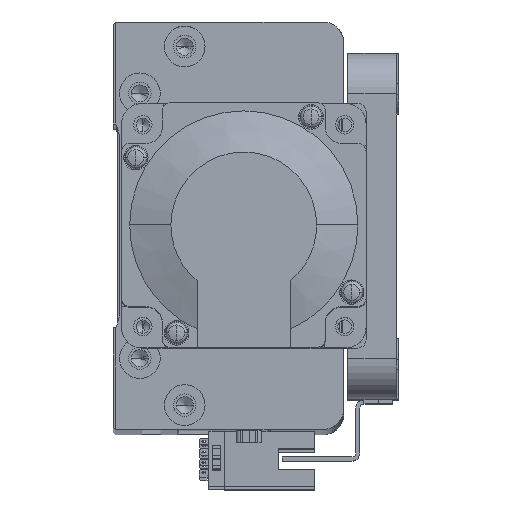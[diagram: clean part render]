
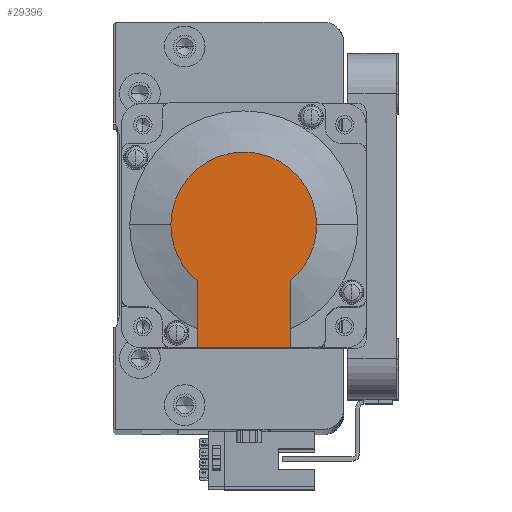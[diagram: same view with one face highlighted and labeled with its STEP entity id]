
A CAD part, top view. The second image highlights one B-rep face of the part: STEP entity #29396.
In plain terms, the highlighted planar face has unit normal (0, 0, 1) as drawn and (-1, 0, 0) by its records, which use the part's own axes.
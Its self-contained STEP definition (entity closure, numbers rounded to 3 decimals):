
#461 = CIRCLE ( 'NONE', #43246, 17.881 ) ;
#649 = CARTESIAN_POINT ( 'NONE',  ( -118.5, 30., -11.45 ) ) ;
#2183 = ORIENTED_EDGE ( 'NONE', *, *, #30543, .T. ) ;
#2782 = VECTOR ( 'NONE', #32175, 1000. ) ;
#3434 = VECTOR ( 'NONE', #19362, 1000. ) ;
#6006 = ORIENTED_EDGE ( 'NONE', *, *, #53233, .F. ) ;
#6370 = FACE_OUTER_BOUND ( 'NONE', #32394, .T. ) ;
#11005 = DIRECTION ( 'NONE',  ( -1., 0., 0. ) ) ;
#11034 = VERTEX_POINT ( 'NONE', #26149 ) ;
#11281 = VECTOR ( 'NONE', #24624, 1000. ) ;
#11734 = DIRECTION ( 'NONE',  ( -1., 0., 0. ) ) ;
#14807 = LINE ( 'NONE', #36334, #3434 ) ;
#14821 = CARTESIAN_POINT ( 'NONE',  ( -118.5, -8.941, -11.45 ) ) ;
#17393 = DIRECTION ( 'NONE',  ( -1., 0., 0. ) ) ;
#19362 = DIRECTION ( 'NONE',  ( 0., 0., 1. ) ) ;
#20953 = VERTEX_POINT ( 'NONE', #41167 ) ;
#20984 = EDGE_CURVE ( 'NONE', #11034, #20953, #47844, .T. ) ;
#23219 = AXIS2_PLACEMENT_3D ( 'NONE', #42920, #17393, #47119 ) ;
#24078 = CARTESIAN_POINT ( 'NONE',  ( -118.5, 0., 0. ) ) ;
#24624 = DIRECTION ( 'NONE',  ( 0., -1., 0. ) ) ;
#26149 = CARTESIAN_POINT ( 'NONE',  ( -118.5, 13.735, -11.45 ) ) ;
#27741 = ORIENTED_EDGE ( 'NONE', *, *, #34643, .T. ) ;
#28204 = AXIS2_PLACEMENT_3D ( 'NONE', #24078, #53751, #28400 ) ;
#28400 = DIRECTION ( 'NONE',  ( 0., 0., -1. ) ) ;
#29193 = EDGE_CURVE ( 'NONE', #54763, #38963, #51600, .T. ) ;
#29396 = ADVANCED_FACE ( 'NONE', ( #6370 ), #42729, .T. ) ;
#30543 = EDGE_CURVE ( 'NONE', #37961, #11034, #36864, .T. ) ;
#31181 = AXIS2_PLACEMENT_3D ( 'NONE', #37262, #11734, #41520 ) ;
#32175 = DIRECTION ( 'NONE',  ( 0., -1., 0. ) ) ;
#32394 = EDGE_LOOP ( 'NONE', ( #2183, #53802, #27741, #32636, #6006, #38428 ) ) ;
#32636 = ORIENTED_EDGE ( 'NONE', *, *, #29193, .T. ) ;
#33713 = CARTESIAN_POINT ( 'NONE',  ( -118.5, 30., 11.45 ) ) ;
#34643 = EDGE_CURVE ( 'NONE', #20953, #54763, #461, .T. ) ;
#36334 = CARTESIAN_POINT ( 'NONE',  ( -118.5, 30., 25. ) ) ;
#36564 = CARTESIAN_POINT ( 'NONE',  ( -118.5, 0., 0. ) ) ;
#36864 = LINE ( 'NONE', #14821, #2782 ) ;
#37262 = CARTESIAN_POINT ( 'NONE',  ( -118.5, 0., 0. ) ) ;
#37961 = VERTEX_POINT ( 'NONE', #649 ) ;
#38428 = ORIENTED_EDGE ( 'NONE', *, *, #49484, .F. ) ;
#38963 = VERTEX_POINT ( 'NONE', #52990 ) ;
#39285 = LINE ( 'NONE', #54290, #11281 ) ;
#40825 = DIRECTION ( 'NONE',  ( 0., 0., -1. ) ) ;
#41167 = CARTESIAN_POINT ( 'NONE',  ( -118.5, 0., -17.881 ) ) ;
#41520 = DIRECTION ( 'NONE',  ( 0., 0., -1. ) ) ;
#42729 = PLANE ( 'NONE',  #23219 ) ;
#42920 = CARTESIAN_POINT ( 'NONE',  ( -118.5, -8.941, 0. ) ) ;
#43246 = AXIS2_PLACEMENT_3D ( 'NONE', #36564, #11005, #40825 ) ;
#43851 = VERTEX_POINT ( 'NONE', #33713 ) ;
#47119 = DIRECTION ( 'NONE',  ( 0., 0., 1. ) ) ;
#47844 = CIRCLE ( 'NONE', #31181, 17.881 ) ;
#49261 = CARTESIAN_POINT ( 'NONE',  ( -118.5, 0., 17.881 ) ) ;
#49484 = EDGE_CURVE ( 'NONE', #37961, #43851, #14807, .T. ) ;
#51600 = CIRCLE ( 'NONE', #28204, 17.881 ) ;
#52990 = CARTESIAN_POINT ( 'NONE',  ( -118.5, 13.735, 11.45 ) ) ;
#53233 = EDGE_CURVE ( 'NONE', #43851, #38963, #39285, .T. ) ;
#53751 = DIRECTION ( 'NONE',  ( -1., 0., 0. ) ) ;
#53802 = ORIENTED_EDGE ( 'NONE', *, *, #20984, .T. ) ;
#54290 = CARTESIAN_POINT ( 'NONE',  ( -118.5, 0., 11.45 ) ) ;
#54763 = VERTEX_POINT ( 'NONE', #49261 ) ;
